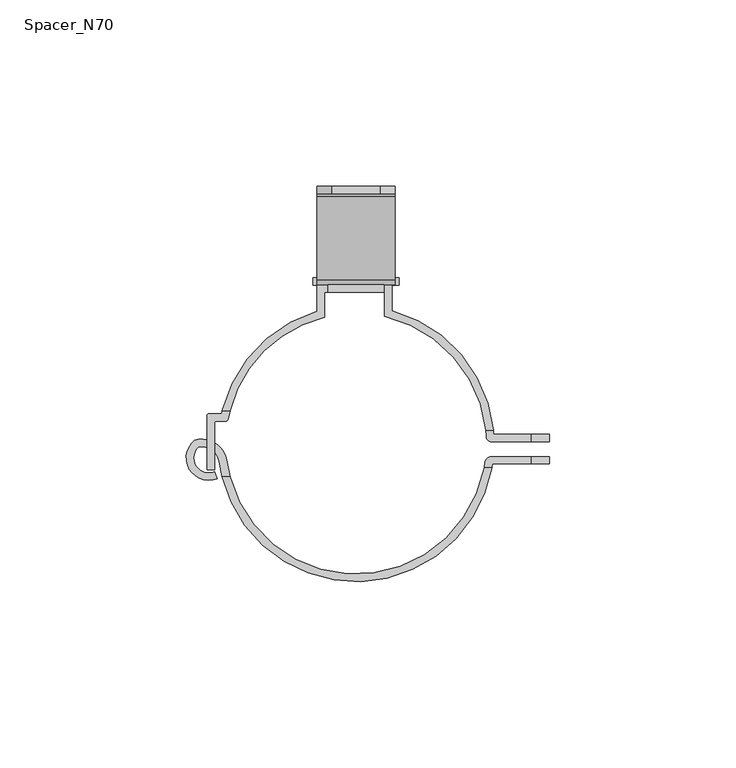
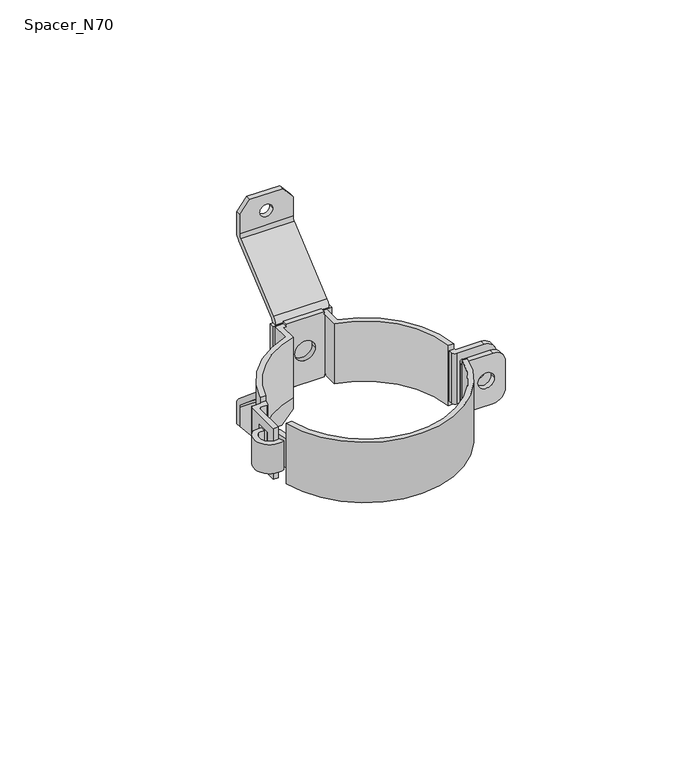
"""IFC4 building model written with IfcOpenShell, lengths in millimetres: proxy geometry, GROVIK_Downpipe_Bracket : Spacer_N70."""

from ifc_helpers import new_model, si_unit, point, frame, frame_2d, origin, origin_with_axes, origin_2d, place, context, project, spatial, polyline, circle_curve, trimmed, segment, composite_curve, outline, extrude, source, transform, mapped, element, save
from ifc_brep_helpers import plane_surface, cylinder_surface, revolved_surface, advanced_brep


def spacer_n70_b585c063(model_context):
    return source(origin(), model_context, "Body", "SolidModel", [
        advanced_brep(
        [(-33.8615774, -8.8540146, 12.5), (-35.9250111, -8.8540146, 12.5), (36.4341773, -6.4459854, 12.5), (34.4012975, -6.4459854, 12.5), (-33.8615774, -8.8540146, -12.5), (34.4012975, -6.4459854, -12.5), (36.4341773, -6.4459854, -12.5), (-35.9250111, -8.8540146, -12.5)],
        [
            (0, 1),
            (1, 2, circle_curve(frame((0.0, 0.0, 12.5), z_axis=(0.0, 0.0, 1.0), x_axis=(1.0, 0.0, 0.0)), 37.0)),
            (2, 3),
            (3, 0, circle_curve(frame((0.0, 0.0, 12.5), z_axis=(0.0, 0.0, -1.0), x_axis=(1.0, 0.0, 0.0)), 35.0)),
            (4, 5, circle_curve(frame((0.0, 0.0, -12.5), z_axis=(0.0, 0.0, 1.0), x_axis=(1.0, 0.0, 0.0)), 35.0)),
            (5, 6),
            (6, 7, circle_curve(frame((0.0, 0.0, -12.5), z_axis=(0.0, 0.0, -1.0), x_axis=(1.0, 0.0, 0.0)), 37.0)),
            (7, 4),
            (0, 4),
            (7, 1),
            (6, 2),
            (5, 3),
        ],
        [
            plane_surface(frame((-33.8615774, -8.8540146, 12.5), z_axis=(0.0, 0.0, 1.0), x_axis=(-1.0, 0.0, 0.0))),
            plane_surface(frame((-33.8615774, -8.8540146, -12.5), z_axis=(0.0, 0.0, -1.0), x_axis=(1.0, 0.0, 0.0))),
            plane_surface(frame((-33.8615774, -8.8540146, 12.5), z_axis=(0.0, 1.0, 0.0), x_axis=(0.0, 0.0, -1.0))),
            cylinder_surface(frame((0.0, 0.0, -12.5), z_axis=(0.0, 0.0, 1.0), x_axis=(1.0, 0.0, 0.0)), 37.0),
            plane_surface(frame((36.4341773, -6.4459854, 12.5), z_axis=(0.0, 1.0, 0.0), x_axis=(0.0, 0.0, -1.0))),
            revolved_surface(polyline([(35.0, 0.0, -12.5), (35.0, 0.0, 12.5)]), (0.0, 0.0, -12.5), (0.0, 0.0, -1.0)),
        ],
        [
            (0, [[1, 2, 3, 4]]),
            (1, [[5, 6, 7, 8]]),
            (2, [[-1, 9, -8, 10]]),
            (3, [[-2, -10, -7, 11]]),
            (4, [[-3, -11, -6, 12]]),
            (5, [[-4, -12, -5, -9]]),
        ],
    ),
        advanced_brep(
        [(-8.5, 33.9521722, 12.5), (-8.5, 40.6, 12.5), (-7.5, 40.6, 12.5), (-7.5, 42.6, 12.5), (-10.5, 42.6, 12.5), (-10.5, 35.4788669, 12.5), (-35.9250111, 8.8540146, 12.5), (-33.8615774, 8.8540146, 12.5), (7.7051856, 40.6, 12.5), (7.7051856, 34.1413256, 12.5), (34.8190893, 3.5540146, 12.5), (36.828915, 3.5540146, 12.5), (9.7051856, 35.7044727, 12.5), (9.7051856, 42.6, 12.5), (7.5, 42.6, 12.5), (7.5, 40.6, 12.5), (-8.5, 33.9521722, -12.5), (-33.8615774, 8.8540146, -12.5), (-35.9250111, 8.8540146, -12.5), (-10.5, 35.4788669, -12.5), (-10.5, 42.6, -12.5), (-7.5, 42.6, -12.5), (-7.5, 40.6, -12.5), (-8.5, 40.6, -12.5), (9.7051856, 42.6, -12.5), (9.7051856, 35.7044727, -12.5), (36.828915, 3.5540146, -12.5), (34.8190893, 3.5540146, -12.5), (7.7051856, 34.1413256, -12.5), (7.7051856, 40.6, -12.5), (7.5, 40.6, -12.5), (7.5, 42.6, -12.5), (-7.5, 40.6, -13.4422023), (7.5, 40.6, -13.4422023), (7.5, 40.6, 13.5577977), (-7.5, 40.6, 13.5577977), (-4.0, 40.6, 0.0), (4.0, 40.6, 0.0), (7.5, 42.6, -13.4422023), (-7.5, 42.6, -13.4422023), (-7.5, 42.6, 13.5577977), (7.5, 42.6, 13.5577977), (4.0, 42.6, 0.0), (-4.0, 42.6, 0.0)],
        [
            (0, 1),
            (1, 2),
            (2, 3),
            (3, 4),
            (4, 5),
            (5, 6, circle_curve(frame((0.0, 0.0, 12.5), z_axis=(0.0, 0.0, 1.0), x_axis=(1.0, 0.0, 0.0)), 37.0)),
            (6, 7),
            (7, 0, circle_curve(frame((0.0, 0.0, 12.5), z_axis=(0.0, 0.0, -1.0), x_axis=(1.0, 0.0, 0.0)), 35.0)),
            (8, 9),
            (9, 10, circle_curve(frame((0.0, 0.0, 12.5), z_axis=(0.0, 0.0, -1.0), x_axis=(1.0, 0.0, 0.0)), 35.0)),
            (10, 11),
            (11, 12, circle_curve(frame((0.0, 0.0, 12.5), z_axis=(0.0, 0.0, 1.0), x_axis=(1.0, 0.0, 0.0)), 37.0)),
            (12, 13),
            (13, 14),
            (14, 15),
            (15, 8),
            (16, 17, circle_curve(frame((0.0, 0.0, -12.5), z_axis=(0.0, 0.0, 1.0), x_axis=(1.0, 0.0, 0.0)), 35.0)),
            (17, 18),
            (18, 19, circle_curve(frame((0.0, 0.0, -12.5), z_axis=(0.0, 0.0, -1.0), x_axis=(1.0, 0.0, 0.0)), 37.0)),
            (19, 20),
            (20, 21),
            (21, 22),
            (22, 23),
            (23, 16),
            (24, 25),
            (25, 26, circle_curve(frame((0.0, 0.0, -12.5), z_axis=(0.0, 0.0, -1.0), x_axis=(1.0, 0.0, 0.0)), 37.0)),
            (26, 27),
            (27, 28, circle_curve(frame((0.0, 0.0, -12.5), z_axis=(0.0, 0.0, 1.0), x_axis=(1.0, 0.0, 0.0)), 35.0)),
            (28, 29),
            (29, 30),
            (30, 31),
            (31, 24),
            (10, 27),
            (26, 11),
            (5, 19),
            (18, 6),
            (17, 7),
            (16, 0),
            (23, 1),
            (22, 32),
            (32, 33),
            (33, 30),
            (29, 8),
            (15, 34),
            (34, 35),
            (35, 2),
            (36, 37, circle_curve(frame((0.0, 40.6, 0.0), z_axis=(0.0, 1.0, 0.0), x_axis=(-1.0, 0.0, 0.0)), 4.0)),
            (37, 36, circle_curve(frame((0.0, 40.6, 0.0), z_axis=(0.0, 1.0, 0.0), x_axis=(-1.0, 0.0, 0.0)), 4.0)),
            (28, 9),
            (25, 12),
            (24, 13),
            (31, 38),
            (38, 39),
            (39, 21),
            (20, 4),
            (3, 40),
            (40, 41),
            (41, 14),
            (42, 43, circle_curve(frame((0.0, 42.6, 0.0), z_axis=(0.0, -1.0, 0.0), x_axis=(-1.0, 0.0, 0.0)), 4.0)),
            (43, 42, circle_curve(frame((0.0, 42.6, 0.0), z_axis=(0.0, -1.0, 0.0), x_axis=(-1.0, 0.0, 0.0)), 4.0)),
            (42, 37),
            (36, 43),
            (34, 41),
            (40, 35),
            (33, 38),
            (39, 32),
        ],
        [
            plane_surface(frame((-33.8615774, -8.8540146, 12.5), z_axis=(0.0, 0.0, 1.0), x_axis=(-1.0, 0.0, 0.0))),
            plane_surface(frame((-33.8615774, -8.8540146, -12.5), z_axis=(0.0, 0.0, -1.0), x_axis=(1.0, 0.0, 0.0))),
            plane_surface(frame((34.8190893, 3.5540146, 12.5), z_axis=(0.0, -1.0, 0.0), x_axis=(0.0, 0.0, -1.0))),
            cylinder_surface(origin_with_axes(), 37.0),
            plane_surface(frame((-35.9250111, 8.8540146, 12.5), z_axis=(0.0, -1.0, 0.0), x_axis=(0.0, 0.0, -1.0))),
            revolved_surface(polyline([(35.0, 0.0, -12.5), (35.0, 0.0, 12.5)]), (0.0, 0.0, 0.0), (0.0, 0.0, -1.0)),
            plane_surface(frame((-8.5, 33.9521722, 12.5), z_axis=(1.0, 0.0, 0.0), x_axis=(0.0, 0.0, -1.0))),
            plane_surface(frame((-8.5, 40.6, 12.5), z_axis=(0.0, -1.0, 0.0), x_axis=(0.0, 0.0, -1.0))),
            plane_surface(frame((7.7051856, 40.6, 12.5), z_axis=(-1.0, 0.0, 0.0), x_axis=(0.0, 0.0, -1.0))),
            plane_surface(frame((9.7051856, 35.7044727, 12.5), z_axis=(1.0, 0.0, 0.0), x_axis=(0.0, 0.0, -1.0))),
            plane_surface(frame((9.7051856, 42.6, 12.5), z_axis=(0.0, 1.0, 0.0), x_axis=(0.0, 0.0, -1.0))),
            plane_surface(frame((-10.5, 42.6, 12.5), z_axis=(-1.0, 0.0, 0.0), x_axis=(0.0, 0.0, -1.0))),
            revolved_surface(polyline([(-4.0, 42.6, 0.0), (-4.0, 40.6, 0.0)]), (0.0, 40.6, 0.0), (0.0, 1.0, 0.0)),
            plane_surface(frame((7.5, 40.6, 13.5577977), z_axis=(0.0, 0.0, 1.0), x_axis=(0.0, 1.0, 0.0))),
            plane_surface(frame((-7.5, 40.6, 13.5577977), z_axis=(-1.0, 0.0, 0.0), x_axis=(0.0, 1.0, 0.0))),
            plane_surface(frame((7.5, 40.6, 12.5), z_axis=(1.0, 0.0, 0.0), x_axis=(0.0, 1.0, 0.0))),
            plane_surface(frame((7.5, 40.6, -13.4422023), z_axis=(1.0, 0.0, 0.0), x_axis=(0.0, 1.0, 0.0))),
            plane_surface(frame((-7.5, 40.6, -12.5), z_axis=(-1.0, 0.0, 0.0), x_axis=(0.0, 1.0, 0.0))),
            plane_surface(frame((-7.5, 40.6, -13.4422023), z_axis=(0.0, 0.0, -1.0), x_axis=(0.0, 1.0, 0.0))),
        ],
        [
            (0, [[1, 2, 3, 4, 5, 6, 7, 8]]),
            (0, [[9, 10, 11, 12, 13, 14, 15, 16]]),
            (1, [[17, 18, 19, 20, 21, 22, 23, 24]]),
            (1, [[25, 26, 27, 28, 29, 30, 31, 32]]),
            (2, [[-11, 33, -27, 34]]),
            (3, [[-6, 35, -19, 36]]),
            (4, [[-7, -36, -18, 37]]),
            (5, [[-8, -37, -17, 38]]),
            (6, [[-1, -38, -24, 39]]),
            (7, [[-39, -23, 40, 41, 42, -30, 43, -16, 44, 45, 46, -2], [47, 48]]),
            (8, [[-9, -43, -29, 49]]),
            (5, [[-10, -49, -28, -33]]),
            (3, [[-12, -34, -26, 50]]),
            (9, [[-13, -50, -25, 51]]),
            (10, [[-51, -32, 52, 53, 54, -21, 55, -4, 56, 57, 58, -14], [59, 60]]),
            (11, [[-5, -55, -20, -35]]),
            (12, [[61, -47, 62, -59]]),
            (12, [[-61, -60, -62, -48]]),
            (13, [[-45, 63, -57, 64]]),
            (14, [[-46, -64, -56, -3]]),
            (15, [[-44, -15, -58, -63]]),
            (16, [[-42, 65, -52, -31]]),
            (17, [[-40, -22, -54, 66]]),
            (18, [[-41, -66, -53, -65]]),
        ],
    ),
        advanced_brep(
        [(36.9117462, 2.5540146, 10.5), (36.828915, 3.5540146, 10.5), (34.8190893, 3.5540146, 10.5), (34.9414785, 2.0231362, 10.5), (36.4106001, 0.5540146, 10.5), (46.9154439, 0.5540146, 10.5), (46.9154439, 2.5540146, 10.5), (36.4106001, 0.5540146, -10.5), (34.9414785, 2.0231362, -10.5), (34.8190893, 3.5540146, -10.5), (36.828915, 3.5540146, -10.5), (36.9117462, 2.5540146, -10.5), (46.9154439, 2.5540146, -10.5), (46.9154439, 0.5540146, -10.5), (51.9154439, 0.5540146, 5.5), (51.9154439, 0.5540146, -5.5), (51.9154439, 2.5540146, -5.5), (51.9154439, 2.5540146, 5.5), (41.2, 2.5540146, 0.0), (47.6, 2.5540146, 0.0), (47.6, 0.5540146, 0.0), (41.2, 0.5540146, 0.0)],
        [
            (0, 1, circle_curve(frame((0.0, 0.0, 10.5), z_axis=(0.0, 0.0, 1.0), x_axis=(1.0, 0.0, 0.0)), 37.0)),
            (1, 2),
            (2, 3, circle_curve(frame((0.0, 0.0, 10.5), z_axis=(0.0, 0.0, -1.0), x_axis=(1.0, 0.0, 0.0)), 35.0)),
            (3, 4, circle_curve(frame((36.4106001, 2.0231362, 10.5), z_axis=(0.0, 0.0, 1.0), x_axis=(1.0, 0.0, 0.0)), 1.4691216)),
            (4, 5),
            (5, 6),
            (6, 0),
            (7, 8, circle_curve(frame((36.4106001, 2.0231362, -10.5), z_axis=(0.0, 0.0, -1.0), x_axis=(1.0, 0.0, 0.0)), 1.4691216)),
            (8, 9, circle_curve(frame((0.0, 0.0, -10.5), z_axis=(0.0, 0.0, 1.0), x_axis=(1.0, 0.0, 0.0)), 35.0)),
            (9, 10),
            (10, 11, circle_curve(frame((0.0, 0.0, -10.5), z_axis=(0.0, 0.0, -1.0), x_axis=(1.0, 0.0, 0.0)), 37.0)),
            (11, 12),
            (12, 13),
            (13, 7),
            (14, 15),
            (15, 16),
            (16, 17),
            (17, 14),
            (11, 0),
            (6, 17, circle_curve(frame((46.9154439, 2.5540146, 5.5), z_axis=(0.0, 1.0, 0.0), x_axis=(1.0, 0.0, 0.0)), 5.0)),
            (16, 12, circle_curve(frame((46.9154439, 2.5540146, -5.5), z_axis=(0.0, 1.0, 0.0), x_axis=(1.0, 0.0, 0.0)), 5.0)),
            (18, 19, circle_curve(frame((44.4, 2.5540146, 0.0), z_axis=(0.0, -1.0, 0.0), x_axis=(1.0, 0.0, 0.0)), 3.2)),
            (19, 18, circle_curve(frame((44.4, 2.5540146, 0.0), z_axis=(0.0, -1.0, 0.0), x_axis=(1.0, 0.0, 0.0)), 3.2)),
            (10, 1),
            (9, 2),
            (8, 3),
            (7, 4),
            (13, 15, circle_curve(frame((46.9154439, 0.5540146, -5.5), z_axis=(0.0, -1.0, 0.0), x_axis=(1.0, 0.0, 0.0)), 5.0)),
            (14, 5, circle_curve(frame((46.9154439, 0.5540146, 5.5), z_axis=(0.0, -1.0, 0.0), x_axis=(1.0, 0.0, 0.0)), 5.0)),
            (20, 21, circle_curve(frame((44.4, 0.5540146, 0.0), z_axis=(0.0, 1.0, 0.0), x_axis=(1.0, 0.0, 0.0)), 3.2)),
            (21, 20, circle_curve(frame((44.4, 0.5540146, 0.0), z_axis=(0.0, 1.0, 0.0), x_axis=(1.0, 0.0, 0.0)), 3.2)),
            (18, 21),
            (20, 19),
        ],
        [
            plane_surface(frame((51.9154439, 0.5540146, 10.5), z_axis=(0.0, 0.0, 1.0), x_axis=(0.0, 1.0, 0.0))),
            plane_surface(frame((51.9154439, 0.5540146, -10.5), z_axis=(0.0, 0.0, -1.0), x_axis=(0.0, -1.0, 0.0))),
            plane_surface(frame((51.9154439, 0.5540146, 10.5), z_axis=(1.0, 0.0, 0.0), x_axis=(0.0, 0.0, -1.0))),
            plane_surface(frame((51.9154439, 2.5540146, 10.5), z_axis=(0.0, 1.0, 0.0), x_axis=(0.0, 0.0, -1.0))),
            cylinder_surface(frame((0.0, 0.0, -10.5), z_axis=(0.0, 0.0, 1.0), x_axis=(1.0, 0.0, 0.0)), 37.0),
            plane_surface(frame((36.828915, 3.5540146, 10.5), z_axis=(0.0, 1.0, 0.0), x_axis=(0.0, 0.0, -1.0))),
            revolved_surface(polyline([(35.0, 0.0, -10.5), (35.0, 0.0, 10.5)]), (0.0, 0.0, -10.5), (0.0, 0.0, -1.0)),
            cylinder_surface(frame((36.4106001, 2.0231362, -10.5), z_axis=(0.0, 0.0, 1.0), x_axis=(1.0, 0.0, 0.0)), 1.4691216),
            plane_surface(frame((36.4106001, 0.5540146, 10.5), z_axis=(0.0, -1.0, 0.0), x_axis=(0.0, 0.0, -1.0))),
            revolved_surface(polyline([(47.6, 0.5540145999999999, 0.0), (47.6, 2.5540146, 0.0)]), (44.4, 2.5540146, 0.0), (0.0, -1.0, 0.0)),
            cylinder_surface(frame((46.9154439, 0.0, 5.5), z_axis=(0.0, 1.0, 0.0), x_axis=(1.0, 0.0, 0.0)), 5.0),
            cylinder_surface(frame((46.9154439, 0.0, -5.5), z_axis=(0.0, 1.0, 0.0), x_axis=(1.0, 0.0, 0.0)), 5.0),
        ],
        [
            (0, [[1, 2, 3, 4, 5, 6, 7]]),
            (1, [[8, 9, 10, 11, 12, 13, 14]]),
            (2, [[15, 16, 17, 18]]),
            (3, [[19, -7, 20, -17, 21, -12], [22, 23]]),
            (4, [[-1, -19, -11, 24]]),
            (5, [[-2, -24, -10, 25]]),
            (6, [[-3, -25, -9, 26]]),
            (7, [[-4, -26, -8, 27]]),
            (8, [[-27, -14, 28, -15, 29, -5], [30, 31]]),
            (9, [[32, -30, 33, -22]]),
            (9, [[-32, -23, -33, -31]]),
            (10, [[-6, -29, -18, -20]]),
            (11, [[-13, -21, -16, -28]]),
        ],
    ),
        advanced_brep(
        [(36.3374302, -3.4459854, 10.5), (34.654225, -4.9076155, 10.5), (34.4012975, -6.4459854, 10.5), (36.4341773, -6.4459854, 10.5), (36.5970114, -5.4459854, 10.5), (46.9154439, -5.4459854, 10.5), (46.9154439, -3.4459854, 10.5), (36.5970114, -5.4459854, -10.5), (36.4341773, -6.4459854, -10.5), (34.4012975, -6.4459854, -10.5), (34.654225, -4.9076155, -10.5), (36.3374302, -3.4459854, -10.5), (46.9154439, -3.4459854, -10.5), (46.9154439, -5.4459854, -10.5), (51.9154439, -3.4459854, 5.5), (51.9154439, -3.4459854, -5.5), (41.2, -3.4459854, 0.0), (47.6, -3.4459854, 0.0), (51.9154439, -5.4459854, -5.5), (51.9154439, -5.4459854, 5.5), (47.6, -5.4459854, 0.0), (41.2, -5.4459854, 0.0)],
        [
            (0, 1, circle_curve(frame((36.3374302, -5.1459854, 10.5), z_axis=(0.0, 0.0, 1.0), x_axis=(1.0, 0.0, 0.0)), 1.7)),
            (1, 2, circle_curve(frame((0.0, 0.0, 10.5), z_axis=(0.0, 0.0, -1.0), x_axis=(1.0, 0.0, 0.0)), 35.0)),
            (2, 3),
            (3, 4, circle_curve(frame((0.0, 0.0, 10.5), z_axis=(0.0, 0.0, 1.0), x_axis=(1.0, 0.0, 0.0)), 37.0)),
            (4, 5),
            (5, 6),
            (6, 0),
            (7, 8, circle_curve(frame((0.0, 0.0, -10.5), z_axis=(0.0, 0.0, -1.0), x_axis=(1.0, 0.0, 0.0)), 37.0)),
            (8, 9),
            (9, 10, circle_curve(frame((0.0, 0.0, -10.5), z_axis=(0.0, 0.0, 1.0), x_axis=(1.0, 0.0, 0.0)), 35.0)),
            (10, 11, circle_curve(frame((36.3374302, -5.1459854, -10.5), z_axis=(0.0, 0.0, -1.0), x_axis=(1.0, 0.0, 0.0)), 1.7)),
            (11, 12),
            (12, 13),
            (13, 7),
            (11, 0),
            (6, 14, circle_curve(frame((46.9154439, -3.4459854, 5.5), z_axis=(0.0, 1.0, 0.0), x_axis=(1.0, 0.0, 0.0)), 5.0)),
            (14, 15),
            (15, 12, circle_curve(frame((46.9154439, -3.4459854, -5.5), z_axis=(0.0, 1.0, 0.0), x_axis=(1.0, 0.0, 0.0)), 5.0)),
            (16, 17, circle_curve(frame((44.4, -3.4459854, 0.0), z_axis=(0.0, -1.0, 0.0), x_axis=(1.0, 0.0, 0.0)), 3.2)),
            (17, 16, circle_curve(frame((44.4, -3.4459854, 0.0), z_axis=(0.0, -1.0, 0.0), x_axis=(1.0, 0.0, 0.0)), 3.2)),
            (10, 1),
            (9, 2),
            (8, 3),
            (7, 4),
            (13, 18, circle_curve(frame((46.9154439, -5.4459854, -5.5), z_axis=(0.0, -1.0, 0.0), x_axis=(1.0, 0.0, 0.0)), 5.0)),
            (18, 19),
            (19, 5, circle_curve(frame((46.9154439, -5.4459854, 5.5), z_axis=(0.0, -1.0, 0.0), x_axis=(1.0, 0.0, 0.0)), 5.0)),
            (20, 21, circle_curve(frame((44.4, -5.4459854, 0.0), z_axis=(0.0, 1.0, 0.0), x_axis=(1.0, 0.0, 0.0)), 3.2)),
            (21, 20, circle_curve(frame((44.4, -5.4459854, 0.0), z_axis=(0.0, 1.0, 0.0), x_axis=(1.0, 0.0, 0.0)), 3.2)),
            (14, 19),
            (18, 15),
            (16, 21),
            (20, 17),
        ],
        [
            plane_surface(frame((51.9154439, 0.5540146, 10.5), z_axis=(0.0, 0.0, 1.0), x_axis=(0.0, 1.0, 0.0))),
            plane_surface(frame((51.9154439, 0.5540146, -10.5), z_axis=(0.0, 0.0, -1.0), x_axis=(0.0, -1.0, 0.0))),
            plane_surface(frame((51.9154439, -3.4459854, 10.5), z_axis=(0.0, 1.0, 0.0), x_axis=(0.0, 0.0, -1.0))),
            cylinder_surface(frame((36.3374302, -5.1459854, 0.0), z_axis=(0.0, 0.0, 1.0), x_axis=(1.0, 0.0, 0.0)), 1.7),
            revolved_surface(polyline([(35.0, 0.0, -10.5), (35.0, 0.0, 10.5)]), (0.0, 0.0, 0.0), (0.0, 0.0, -1.0)),
            plane_surface(frame((34.4012975, -6.4459854, 10.5), z_axis=(0.0, -1.0, 0.0), x_axis=(0.0, 0.0, -1.0))),
            cylinder_surface(origin_with_axes(), 37.0),
            plane_surface(frame((36.5970114, -5.4459854, 10.5), z_axis=(0.0, -1.0, 0.0), x_axis=(0.0, 0.0, -1.0))),
            plane_surface(frame((51.9154439, -5.4459854, 10.5), z_axis=(1.0, 0.0, 0.0), x_axis=(0.0, 0.0, -1.0))),
            revolved_surface(polyline([(47.6, -5.4459854, 0.0), (47.6, -3.4459854, 0.0)]), (44.4, 2.5540146, 0.0), (0.0, -1.0, 0.0)),
            cylinder_surface(frame((46.9154439, 0.0, 5.5), z_axis=(0.0, 1.0, 0.0), x_axis=(1.0, 0.0, 0.0)), 5.0),
            cylinder_surface(frame((46.9154439, 0.0, -5.5), z_axis=(0.0, 1.0, 0.0), x_axis=(1.0, 0.0, 0.0)), 5.0),
        ],
        [
            (0, [[1, 2, 3, 4, 5, 6, 7]]),
            (1, [[8, 9, 10, 11, 12, 13, 14]]),
            (2, [[15, -7, 16, 17, 18, -12], [19, 20]]),
            (3, [[-1, -15, -11, 21]]),
            (4, [[-2, -21, -10, 22]]),
            (5, [[-3, -22, -9, 23]]),
            (6, [[-4, -23, -8, 24]]),
            (7, [[-24, -14, 25, 26, 27, -5], [28, 29]]),
            (8, [[-17, 30, -26, 31]]),
            (9, [[32, -28, 33, -19]]),
            (9, [[-32, -20, -33, -29]]),
            (10, [[-6, -27, -30, -16]]),
            (11, [[-13, -18, -31, -25]]),
        ],
    ),
        advanced_brep(
        [(-37.9966215, -6.9459854, 10.5577977), (-37.9966215, 5.5540146, 10.5577977), (-37.4966215, 6.0540146, 10.5577977), (-34.9560617, 6.0540146, 10.5577977), (-34.3862327, 6.5258716, 10.5577977), (-33.8615774, 8.8540146, 10.5577977), (-35.9250111, 8.8540146, 10.5577977), (-36.1127796, 8.0540146, 10.5577977), (-39.4566215, 8.0540146, 10.5577977), (-39.9966215, 7.5140146, 10.5577977), (-39.9966215, -6.9459854, 10.5577977), (-37.9966215, -6.9459854, -10.4422023), (-39.9966215, -6.9459854, -10.4422023), (-39.9966215, 7.5140146, -10.4422023), (-39.4566215, 8.0540146, -10.4422023), (-36.1127796, 8.0540146, -10.4422023), (-35.9250111, 8.8540146, -10.4422023), (-33.8615774, 8.8540146, -10.4422023), (-34.3862327, 6.5258716, -10.4422023), (-34.9560617, 6.0540146, -10.4422023), (-37.4966215, 6.0540146, -10.4422023), (-37.9966215, 5.5540146, -10.4422023), (-37.9966215, -2.9459854, 6.5577977), (-37.9966215, 2.5540146, 6.5577977), (-37.9966215, 2.5540146, -6.4422023), (-37.9966215, -2.9459854, -6.4422023), (-39.9966215, 2.5540146, 6.5577977), (-39.9966215, -2.9459854, 6.5577977), (-39.9966215, -2.9459854, -6.4422023), (-39.9966215, 2.5540146, -6.4422023)],
        [
            (0, 1),
            (1, 2, circle_curve(frame((-37.4966215, 5.5540146, 10.5577977), z_axis=(0.0, 0.0, -1.0), x_axis=(1.0, 0.0, 0.0)), 0.5)),
            (2, 3),
            (3, 4, circle_curve(frame((-34.9560617, 6.6340146, 10.5577977), z_axis=(0.0, 0.0, 1.0), x_axis=(1.0, 0.0, 0.0)), 0.58)),
            (4, 5, circle_curve(frame((0.0, 0.0, 10.5577977), z_axis=(0.0, 0.0, -1.0), x_axis=(1.0, 0.0, 0.0)), 35.0)),
            (5, 6),
            (6, 7, circle_curve(frame((0.0, 0.0, 10.5577977), z_axis=(0.0, 0.0, 1.0), x_axis=(1.0, 0.0, 0.0)), 37.0)),
            (7, 8),
            (8, 9, circle_curve(frame((-39.4566215, 7.5140146, 10.5577977), z_axis=(0.0, 0.0, 1.0), x_axis=(1.0, 0.0, 0.0)), 0.54)),
            (9, 10),
            (10, 0),
            (11, 12),
            (12, 13),
            (13, 14, circle_curve(frame((-39.4566215, 7.5140146, -10.4422023), z_axis=(0.0, 0.0, -1.0), x_axis=(1.0, 0.0, 0.0)), 0.54)),
            (14, 15),
            (15, 16, circle_curve(frame((0.0, 0.0, -10.4422023), z_axis=(0.0, 0.0, -1.0), x_axis=(1.0, 0.0, 0.0)), 37.0)),
            (16, 17),
            (17, 18, circle_curve(frame((0.0, 0.0, -10.4422023), z_axis=(0.0, 0.0, 1.0), x_axis=(1.0, 0.0, 0.0)), 35.0)),
            (18, 19, circle_curve(frame((-34.9560617, 6.6340146, -10.4422023), z_axis=(0.0, 0.0, -1.0), x_axis=(1.0, 0.0, 0.0)), 0.58)),
            (19, 20),
            (20, 21, circle_curve(frame((-37.4966215, 5.5540146, -10.4422023), z_axis=(0.0, 0.0, 1.0), x_axis=(1.0, 0.0, 0.0)), 0.5)),
            (21, 11),
            (0, 11),
            (21, 1),
            (22, 23),
            (23, 24),
            (24, 25),
            (25, 22),
            (20, 2),
            (19, 3),
            (18, 4),
            (17, 5),
            (16, 6),
            (15, 7),
            (14, 8),
            (13, 9),
            (12, 10),
            (26, 27),
            (27, 28),
            (28, 29),
            (29, 26),
            (26, 23),
            (22, 27),
            (29, 24),
            (28, 25),
        ],
        [
            plane_surface(frame((-37.9966215, -6.9459854, 10.5577977), z_axis=(0.0, 0.0, 1.0), x_axis=(0.0, 1.0, 0.0))),
            plane_surface(frame((-37.9966215, -6.9459854, -10.4422023), z_axis=(0.0, 0.0, -1.0), x_axis=(0.0, -1.0, 0.0))),
            plane_surface(frame((-37.9966215, -6.9459854, 10.5577977), z_axis=(1.0, 0.0, 0.0), x_axis=(0.0, 0.0, -1.0))),
            revolved_surface(polyline([(-36.9966215, 5.5540146, -10.4422023), (-36.9966215, 5.5540146, 10.5577977)]), (-37.4966215, 5.5540146, -10.4422023), (0.0, 0.0, -1.0)),
            plane_surface(frame((-37.4966215, 6.0540146, 10.5577977), z_axis=(0.0, -1.0, 0.0), x_axis=(0.0, 0.0, -1.0))),
            cylinder_surface(frame((-34.9560617, 6.6340146, -10.4422023), z_axis=(0.0, 0.0, 1.0), x_axis=(1.0, 0.0, 0.0)), 0.58),
            revolved_surface(polyline([(35.0, 0.0, -10.4422023), (35.0, 0.0, 10.5577977)]), (0.0, 0.0, -10.4422023), (0.0, 0.0, -1.0)),
            plane_surface(frame((-33.8615774, 8.8540146, 10.5577977), z_axis=(0.0, 1.0, 0.0), x_axis=(0.0, 0.0, -1.0))),
            cylinder_surface(frame((0.0, 0.0, -10.4422023), z_axis=(0.0, 0.0, 1.0), x_axis=(1.0, 0.0, 0.0)), 37.0),
            plane_surface(frame((-36.1127796, 8.0540146, 10.5577977), z_axis=(0.0, 1.0, 0.0), x_axis=(0.0, 0.0, -1.0))),
            cylinder_surface(frame((-39.4566215, 7.5140146, -10.4422023), z_axis=(0.0, 0.0, 1.0), x_axis=(1.0, 0.0, 0.0)), 0.54),
            plane_surface(frame((-39.9966215, 7.5140146, 10.5577977), z_axis=(-1.0, 0.0, 0.0), x_axis=(0.0, 0.0, -1.0))),
            plane_surface(frame((-39.9966215, -6.9459854, 10.5577977), z_axis=(0.0, -1.0, 0.0), x_axis=(0.0, 0.0, -1.0))),
            plane_surface(frame((-39.9966215, -2.9459854, 6.5577977), z_axis=(0.0, 0.0, -1.0), x_axis=(1.0, 0.0, 0.0))),
            plane_surface(frame((-39.9966215, 2.5540146, 6.5577977), z_axis=(0.0, -1.0, 0.0), x_axis=(1.0, 0.0, 0.0))),
            plane_surface(frame((-39.9966215, 2.5540146, -6.4422023), z_axis=(0.0, 0.0, 1.0), x_axis=(1.0, 0.0, 0.0))),
            plane_surface(frame((-39.9966215, -2.9459854, -6.4422023), z_axis=(0.0, 1.0, 0.0), x_axis=(1.0, 0.0, 0.0))),
        ],
        [
            (0, [[1, 2, 3, 4, 5, 6, 7, 8, 9, 10, 11]]),
            (1, [[12, 13, 14, 15, 16, 17, 18, 19, 20, 21, 22]]),
            (2, [[-1, 23, -22, 24], [25, 26, 27, 28]]),
            (3, [[-2, -24, -21, 29]]),
            (4, [[-3, -29, -20, 30]]),
            (5, [[-4, -30, -19, 31]]),
            (6, [[-5, -31, -18, 32]]),
            (7, [[-6, -32, -17, 33]]),
            (8, [[-7, -33, -16, 34]]),
            (9, [[-8, -34, -15, 35]]),
            (10, [[-9, -35, -14, 36]]),
            (11, [[-10, -36, -13, 37], [38, 39, 40, 41]]),
            (12, [[-11, -37, -12, -23]]),
            (13, [[42, -25, 43, -38]]),
            (14, [[-42, -41, 44, -26]]),
            (15, [[-44, -40, 45, -27]]),
            (16, [[-43, -28, -45, -39]]),
        ],
    ),
        extrude(outline(composite_curve([segment(polyline([(-38.0002626, -7.5184048), (-37.2308175, -9.3644631)]), True, "CONTINUOUS"), segment(trimmed(circle_curve(frame_2d((-39.5436807, -3.791229)), 6.0340926), [point((-37.2308175, -9.3644631))], [point((-43.2882194, 0.9404413))], False, "CARTESIAN"), True, "CONTINUOUS"), segment(trimmed(circle_curve(frame_2d((-41.4878894, -5.7061337)), 6.8860836), [point((-43.2882194, 0.9404413))], [point((-39.9966215, 1.0165344))], False, "CARTESIAN"), True, "CONTINUOUS"), segment(polyline([(-39.9966215, 1.0165344), (-39.9966215, -1.054381)]), True, "CONTINUOUS"), segment(trimmed(circle_curve(frame_2d((-41.4873073, -5.7096175)), 4.8880846), [point((-39.9966215, -1.054381))], [point((-42.3539923, -0.8989805))], True, "CARTESIAN"), True, "CONTINUOUS"), segment(trimmed(circle_curve(frame_2d((-39.5435376, -3.7919678)), 4.0333647), [point((-42.3539923, -0.8989805))], [point((-38.0002626, -7.5184048))], True, "CARTESIAN"), True, "CONTINUOUS")], self_intersect=False)), frame((0.0, 0.0, -6.0), z_axis=(0.0, 0.0, 1.0), x_axis=(1.0, 0.0, 0.0)), (0.0, 0.0, 1.0), 12.0),
        extrude(outline(composite_curve([segment(trimmed(circle_curve(frame_2d((-0.0114105, 0.036678)), 35.0), [point((-34.7332715, -4.3669984))], [point((-33.8633762, -8.8540146))], True, "CARTESIAN"), True, "CONTINUOUS"), segment(polyline([(-33.8633762, -8.8540146), (-35.9250111, -8.8540146)]), True, "CONTINUOUS"), segment(trimmed(circle_curve(origin_2d(), 37.0), [point((-35.9250111, -8.8540146))], [point((-36.6928919, -4.7572766))], False, "CARTESIAN"), True, "CONTINUOUS"), segment(trimmed(circle_curve(frame_2d((-41.4873073, -5.7096175)), 4.8880846), [point((-36.6928919, -4.7572766))], [point((-37.9943396, -2.2901807))], True, "CARTESIAN"), True, "CONTINUOUS"), segment(polyline([(-37.9943396, -2.2901807), (-37.9943396, 0.2279422)]), True, "CONTINUOUS"), segment(trimmed(circle_curve(frame_2d((-41.4878894, -5.7061337)), 6.8860836), [point((-37.9943396, 0.2279422))], [point((-34.7332715, -4.3669984))], False, "CARTESIAN"), True, "CONTINUOUS")], self_intersect=False)), frame((0.0, 0.0, -6.0), z_axis=(0.0, 0.0, 1.0), x_axis=(1.0, 0.0, 0.0)), (0.0, 0.0, 1.0), 12.0),
        extrude(outline(polyline([(11.5, 44.5540146), (11.5, 42.5540146), (-11.5, 42.5540146), (-11.5, 44.5540146), (11.5, 44.5540146)])), frame((0.0, 0.0, -12.4422023), z_axis=(0.0, 0.0, 1.0), x_axis=(1.0, 0.0, 0.0)), (0.0, 0.0, 1.0), 25.2695387),
        advanced_brep(
        [(10.5, 66.2141327, 34.5457635), (10.5, 43.9828642, 15.8915142), (10.5, 42.5540146, 12.8273365), (10.5, 44.5540146, 12.8273365), (10.5, 45.2684394, 14.3594254), (10.5, 67.499708, 33.0136746), (10.5, 69.0, 36.2310613), (10.5, 69.0, 44.137969), (10.5, 67.0, 44.137969), (10.5, 67.0, 36.2310613), (-10.5, 66.2141327, 34.5457635), (-10.5, 67.0, 36.2310613), (-10.5, 67.0, 44.137969), (-10.5, 69.0, 44.137969), (-10.5, 69.0, 36.2310613), (-10.5, 67.499708, 33.0136746), (-10.5, 45.2684394, 14.3594254), (-10.5, 44.5540146, 12.8273365), (-10.5, 42.5540146, 12.8273365), (-10.5, 43.9828642, 15.8915142), (-6.4202716, 69.0, 49.0), (6.4202716, 69.0, 49.0), (-2.5078124, 69.0, 42.1724306), (2.5078124, 69.0, 42.1724306), (-6.4202716, 67.0, 49.0), (6.4202716, 67.0, 49.0), (2.5078124, 67.0, 42.1724306), (-2.5078124, 67.0, 42.1724306)],
        [
            (0, 1),
            (1, 2, circle_curve(frame((10.5, 46.5540146, 12.8273365), z_axis=(1.0, 0.0, 0.0), x_axis=(0.0, 1.0, 0.0)), 4.0)),
            (2, 3),
            (3, 4, circle_curve(frame((10.5, 46.5540146, 12.8273365), z_axis=(-1.0, 0.0, 0.0), x_axis=(0.0, 1.0, 0.0)), 2.0)),
            (4, 5),
            (5, 6, circle_curve(frame((10.5, 64.8, 36.2310613), z_axis=(1.0, 0.0, 0.0), x_axis=(0.0, 1.0, 0.0)), 4.2)),
            (6, 7),
            (7, 8),
            (8, 9),
            (9, 0, circle_curve(frame((10.5, 64.8, 36.2310613), z_axis=(-1.0, 0.0, 0.0), x_axis=(0.0, 1.0, 0.0)), 2.2)),
            (10, 11, circle_curve(frame((-10.5, 64.8, 36.2310613), z_axis=(1.0, 0.0, 0.0), x_axis=(0.0, 1.0, 0.0)), 2.2)),
            (11, 12),
            (12, 13),
            (13, 14),
            (14, 15, circle_curve(frame((-10.5, 64.8, 36.2310613), z_axis=(-1.0, 0.0, 0.0), x_axis=(0.0, 1.0, 0.0)), 4.2)),
            (15, 16),
            (16, 17, circle_curve(frame((-10.5, 46.5540146, 12.8273365), z_axis=(1.0, 0.0, 0.0), x_axis=(0.0, 1.0, 0.0)), 2.0)),
            (17, 18),
            (18, 19, circle_curve(frame((-10.5, 46.5540146, 12.8273365), z_axis=(-1.0, 0.0, 0.0), x_axis=(0.0, 1.0, 0.0)), 4.0)),
            (19, 10),
            (0, 10),
            (19, 1),
            (18, 2),
            (17, 3),
            (16, 4),
            (15, 5),
            (14, 6),
            (13, 20),
            (20, 21),
            (21, 7),
            (22, 23, circle_curve(frame((0.0, 69.0, 42.1724306), z_axis=(0.0, -1.0, 0.0), x_axis=(1.0, 0.0, 0.0)), 2.5078124)),
            (23, 22, circle_curve(frame((0.0, 69.0, 42.1724306), z_axis=(0.0, -1.0, 0.0), x_axis=(1.0, 0.0, 0.0)), 2.5078124)),
            (20, 24),
            (24, 25),
            (25, 21),
            (11, 9),
            (8, 25),
            (24, 12),
            (26, 27, circle_curve(frame((0.0, 67.0, 42.1724306), z_axis=(0.0, 1.0, 0.0), x_axis=(1.0, 0.0, 0.0)), 2.5078124)),
            (27, 26, circle_curve(frame((0.0, 67.0, 42.1724306), z_axis=(0.0, 1.0, 0.0), x_axis=(1.0, 0.0, 0.0)), 2.5078124)),
            (26, 23),
            (22, 27),
        ],
        [
            plane_surface(frame((10.5, 43.9828642, 15.8915142), z_axis=(1.0000000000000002, 0.0, 0.0), x_axis=(0.0, -0.7660444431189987, -0.6427876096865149))),
            plane_surface(frame((-10.5, 43.9828642, 15.8915142), z_axis=(-1.0000000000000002, 0.0, 0.0), x_axis=(0.0, 0.7660444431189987, 0.6427876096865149))),
            plane_surface(frame((10.5, 66.2141327, 34.5457635), z_axis=(0.0, -0.6427876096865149, 0.7660444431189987), x_axis=(-1.0, 0.0, 0.0))),
            cylinder_surface(frame((-10.5, 46.5540146, 12.8273365), z_axis=(1.0, 0.0, 0.0), x_axis=(0.0, 1.0, 0.0)), 4.0),
            plane_surface(frame((10.5, 42.5540146, 12.8273365), z_axis=(0.0, 0.0, -1.0), x_axis=(-1.0, 0.0, 0.0))),
            revolved_surface(polyline([(-10.5, 48.5540146, 12.8273365), (10.5, 48.5540146, 12.8273365)]), (-10.5, 46.5540146, 12.8273365), (-1.0, 0.0, 0.0)),
            plane_surface(frame((10.5, 45.2684394, 14.3594254), z_axis=(0.0, 0.6427876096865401, -0.7660444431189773), x_axis=(-1.0, 0.0, 0.0))),
            cylinder_surface(frame((-10.5, 64.8, 36.2310613), z_axis=(1.0, 0.0, 0.0), x_axis=(0.0, 1.0, 0.0)), 4.2),
            plane_surface(frame((10.5, 69.0, 36.2310613), z_axis=(0.0, 1.0, 0.0), x_axis=(-1.0, 0.0, 0.0))),
            plane_surface(frame((10.5, 69.0, 49.0), z_axis=(0.0, 0.0, 1.0), x_axis=(-1.0, 0.0, 0.0))),
            plane_surface(frame((10.5, 67.0, 49.0), z_axis=(0.0, -1.0, 0.0), x_axis=(-1.0, 0.0, 0.0))),
            revolved_surface(polyline([(-10.5, 67.0, 36.2310613), (10.5, 67.0, 36.2310613)]), (-10.5, 64.8, 36.2310613), (-1.0, 0.0, 0.0)),
            plane_surface(frame((6.4202716, 67.0, 49.0), z_axis=(0.766044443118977, 0.0, 0.6427876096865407), x_axis=(0.0, 1.0, 0.0))),
            plane_surface(frame((-10.5, 67.0, 44.137969), z_axis=(-0.7660444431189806, 0.0, 0.6427876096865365), x_axis=(0.0, 1.0, 0.0))),
            revolved_surface(polyline([(2.5078124, 67.0, 42.1724306), (2.5078124, 69.0, 42.1724306)]), (0.0, 69.0, 42.1724306), (0.0, -1.0, 0.0)),
        ],
        [
            (0, [[1, 2, 3, 4, 5, 6, 7, 8, 9, 10]]),
            (1, [[11, 12, 13, 14, 15, 16, 17, 18, 19, 20]]),
            (2, [[-1, 21, -20, 22]]),
            (3, [[-2, -22, -19, 23]]),
            (4, [[-3, -23, -18, 24]]),
            (5, [[-4, -24, -17, 25]]),
            (6, [[-5, -25, -16, 26]]),
            (7, [[-6, -26, -15, 27]]),
            (8, [[-27, -14, 28, 29, 30, -7], [31, 32]]),
            (9, [[-29, 33, 34, 35]]),
            (10, [[36, -9, 37, -34, 38, -12], [39, 40]]),
            (11, [[-10, -36, -11, -21]]),
            (12, [[-8, -30, -35, -37]]),
            (13, [[-13, -38, -33, -28]]),
            (14, [[41, -31, 42, -39]]),
            (14, [[-41, -40, -42, -32]]),
        ],
    ),
        advanced_brep(
        [(10.5, 66.2141327, -34.1606293), (10.5, 67.0, -35.845927), (10.5, 67.0, -43.7528348), (10.5, 69.0, -43.7528348), (10.5, 69.0, -35.845927), (10.5, 67.499708, -32.6285404), (10.5, 45.2684394, -13.9742911), (10.5, 44.5540146, -12.4422023), (10.5, 42.5540146, -12.4422023), (10.5, 43.9828642, -15.50638), (-10.5, 66.2141327, -34.1606293), (-10.5, 43.9828642, -15.50638), (-10.5, 42.5540146, -12.4422023), (-10.5, 44.5540146, -12.4422023), (-10.5, 45.2684394, -13.9742911), (-10.5, 67.499708, -32.6285404), (-10.5, 69.0, -35.845927), (-10.5, 69.0, -43.7528348), (-10.5, 67.0, -43.7528348), (-10.5, 67.0, -35.845927), (-6.0971056, 67.0, -49.0), (6.0971056, 67.0, -49.0), (2.5078124, 67.0, -41.7724306), (-2.5078124, 67.0, -41.7724306), (-6.0971056, 69.0, -49.0), (6.0971056, 69.0, -49.0), (-2.5078124, 69.0, -41.7724306), (2.5078124, 69.0, -41.7724306)],
        [
            (0, 1, circle_curve(frame((10.5, 64.8, -35.845927), z_axis=(-1.0, 0.0, 0.0), x_axis=(0.0, 1.0, 0.0)), 2.2)),
            (1, 2),
            (2, 3),
            (3, 4),
            (4, 5, circle_curve(frame((10.5, 64.8, -35.845927), z_axis=(1.0, 0.0, 0.0), x_axis=(0.0, 1.0, 0.0)), 4.2)),
            (5, 6),
            (6, 7, circle_curve(frame((10.5, 46.5540146, -12.4422023), z_axis=(-1.0, 0.0, 0.0), x_axis=(0.0, 1.0, 0.0)), 2.0)),
            (7, 8),
            (8, 9, circle_curve(frame((10.5, 46.5540146, -12.4422023), z_axis=(1.0, 0.0, 0.0), x_axis=(0.0, 1.0, 0.0)), 4.0)),
            (9, 0),
            (10, 11),
            (11, 12, circle_curve(frame((-10.5, 46.5540146, -12.4422023), z_axis=(-1.0, 0.0, 0.0), x_axis=(0.0, 1.0, 0.0)), 4.0)),
            (12, 13),
            (13, 14, circle_curve(frame((-10.5, 46.5540146, -12.4422023), z_axis=(1.0, 0.0, 0.0), x_axis=(0.0, 1.0, 0.0)), 2.0)),
            (14, 15),
            (15, 16, circle_curve(frame((-10.5, 64.8, -35.845927), z_axis=(-1.0, 0.0, 0.0), x_axis=(0.0, 1.0, 0.0)), 4.2)),
            (16, 17),
            (17, 18),
            (18, 19),
            (19, 10, circle_curve(frame((-10.5, 64.8, -35.845927), z_axis=(1.0, 0.0, 0.0), x_axis=(0.0, 1.0, 0.0)), 2.2)),
            (0, 10),
            (19, 1),
            (18, 20),
            (20, 21),
            (21, 2),
            (22, 23, circle_curve(frame((0.0, 67.0, -41.7724306), z_axis=(0.0, 1.0, 0.0), x_axis=(1.0, 0.0, 0.0)), 2.5078124)),
            (23, 22, circle_curve(frame((0.0, 67.0, -41.7724306), z_axis=(0.0, 1.0, 0.0), x_axis=(1.0, 0.0, 0.0)), 2.5078124)),
            (20, 24),
            (24, 25),
            (25, 21),
            (16, 4),
            (3, 25),
            (24, 17),
            (26, 27, circle_curve(frame((0.0, 69.0, -41.7724306), z_axis=(0.0, -1.0, 0.0), x_axis=(1.0, 0.0, 0.0)), 2.5078124)),
            (27, 26, circle_curve(frame((0.0, 69.0, -41.7724306), z_axis=(0.0, -1.0, 0.0), x_axis=(1.0, 0.0, 0.0)), 2.5078124)),
            (15, 5),
            (14, 6),
            (13, 7),
            (12, 8),
            (11, 9),
            (22, 27),
            (26, 23),
        ],
        [
            plane_surface(frame((10.5, 43.9828642, 15.8915142), z_axis=(1.0000000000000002, 0.0, 0.0), x_axis=(0.0, -0.7660444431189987, -0.6427876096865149))),
            plane_surface(frame((-10.5, 43.9828642, 15.8915142), z_axis=(-1.0000000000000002, 0.0, 0.0), x_axis=(0.0, 0.7660444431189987, 0.6427876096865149))),
            revolved_surface(polyline([(-10.5, 67.0, -35.845927), (10.5, 67.0, -35.845927)]), (0.0, 64.8, -35.845927), (-1.0, 0.0, 0.0)),
            plane_surface(frame((10.5, 67.0, -35.845927), z_axis=(0.0, -1.0, 0.0), x_axis=(-1.0, 0.0, 0.0))),
            plane_surface(frame((10.5, 67.0, -49.0), z_axis=(0.0, 0.0, -1.0), x_axis=(-1.0, 0.0, 0.0))),
            plane_surface(frame((10.5, 69.0, -49.0), z_axis=(0.0, 1.0, 0.0), x_axis=(-1.0, 0.0, 0.0))),
            cylinder_surface(frame((0.0, 64.8, -35.845927), z_axis=(1.0, 0.0, 0.0), x_axis=(0.0, 1.0, 0.0)), 4.2),
            plane_surface(frame((10.5, 67.499708, -32.6285404), z_axis=(0.0, 0.6427876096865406, 0.766044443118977), x_axis=(-1.0, 0.0, 0.0))),
            revolved_surface(polyline([(-10.5, 48.5540146, -12.4422023), (10.5, 48.5540146, -12.4422023)]), (0.0, 46.5540146, -12.4422023), (-1.0, 0.0, 0.0)),
            plane_surface(frame((10.5, 44.5540146, -12.4422023), z_axis=(0.0, 0.0, 1.0), x_axis=(-1.0, 0.0, 0.0))),
            cylinder_surface(frame((0.0, 46.5540146, -12.4422023), z_axis=(1.0, 0.0, 0.0), x_axis=(0.0, 1.0, 0.0)), 4.0),
            plane_surface(frame((10.5, 43.9828642, -15.50638), z_axis=(0.0, -0.6427876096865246, -0.7660444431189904), x_axis=(-1.0, 0.0, 0.0))),
            plane_surface(frame((10.5, 67.0, -43.7528348), z_axis=(0.7660444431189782, 0.0, -0.6427876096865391), x_axis=(0.0, 1.0, 0.0))),
            plane_surface(frame((-6.0971056, 67.0, -49.0), z_axis=(-0.7660444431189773, 0.0, -0.6427876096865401), x_axis=(0.0, 1.0, 0.0))),
            revolved_surface(polyline([(2.5078124, 67.0, -41.7724306), (2.5078124, 69.0, -41.7724306)]), (0.0, 69.0, -41.7724306), (0.0, -1.0, 0.0)),
        ],
        [
            (0, [[1, 2, 3, 4, 5, 6, 7, 8, 9, 10]]),
            (1, [[11, 12, 13, 14, 15, 16, 17, 18, 19, 20]]),
            (2, [[-1, 21, -20, 22]]),
            (3, [[-22, -19, 23, 24, 25, -2], [26, 27]]),
            (4, [[-24, 28, 29, 30]]),
            (5, [[31, -4, 32, -29, 33, -17], [34, 35]]),
            (6, [[-5, -31, -16, 36]]),
            (7, [[-6, -36, -15, 37]]),
            (8, [[-7, -37, -14, 38]]),
            (9, [[-8, -38, -13, 39]]),
            (10, [[-9, -39, -12, 40]]),
            (11, [[-10, -40, -11, -21]]),
            (12, [[-3, -25, -30, -32]]),
            (13, [[-18, -33, -28, -23]]),
            (14, [[41, -34, 42, -26]]),
            (14, [[-41, -27, -42, -35]]),
        ],
    ),
    ])


if __name__ == "__main__":
    model = new_model("IFC4")
    model_context = context("Model", 3, world=origin())
    ifc_project = project(units=[si_unit("LENGTHUNIT", "METRE", prefix="MILLI")], contexts=[model_context])
    site = spatial("IfcSite", under=ifc_project)
    building = spatial("IfcBuilding", under=site)
    placement = place(None, origin())
    spacer_n70_shape = spacer_n70_b585c063(model_context)
    element("IfcBuildingElementProxy", 1, Name="GROVIK_Downpipe_Bracket : Spacer_N70", ObjectType="GROVIK_Downpipe_Bracket : Spacer_N70", at=placement, inside=building, context=model_context, shape_type="MappedRepresentation", body=[
        mapped(spacer_n70_shape, transform((0.0, 0.0, 0.0), x_axis=(1.0, 0.0, 0.0), y_axis=(0.0, 1.0, 0.0), z_axis=(0.0, 0.0, 1.0))),
    ])
    save(model, "model.ifc")
